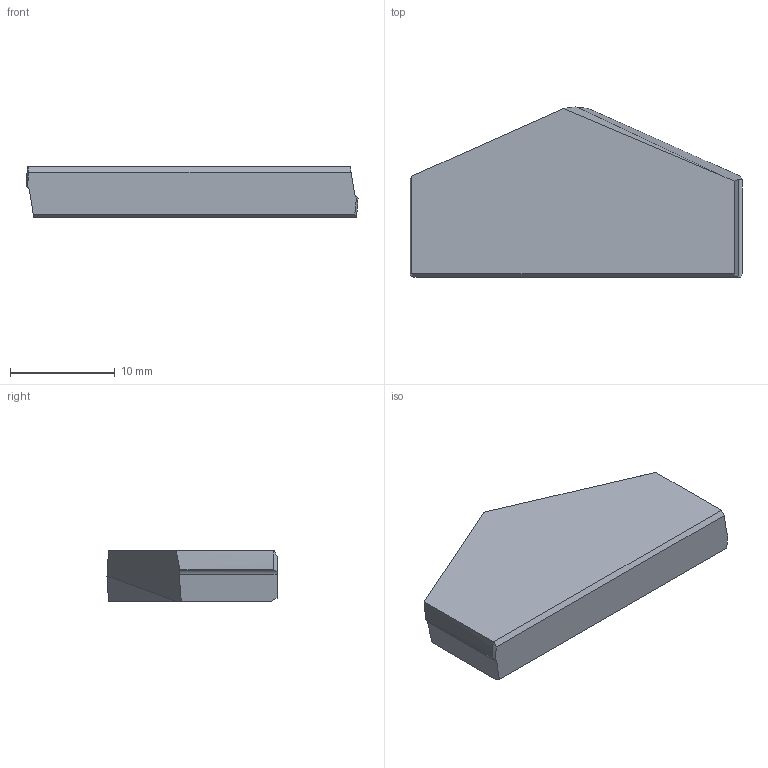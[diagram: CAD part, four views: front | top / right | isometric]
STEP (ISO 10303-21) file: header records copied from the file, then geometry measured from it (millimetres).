
FILE_DESCRIPTION (( 'STEP AP214' ), '1' );
FILE_NAME ('1.1-4.STEP', '2022-06-24T05:48:43', ( '' ), ( '' ), 'SwSTEP 2.0', 'SolidWorks 2018', '' );
FILE_SCHEMA (( 'AUTOMOTIVE_DESIGN' ));
Length unit declared in the file: millimetre
Products named in the file (1): 1.1-4
Bounding box: 31.73 x 16.25 x 4.8 mm (x, y, z)
Volume: 1899.3 mm3; surface area: 1179.1 mm2
Topology: 1 solids, 1 shells, 17 faces, 44 edges, 29 vertices
Faces by surface type: plane 11, cylinder 4, cone 2
Entity records: 554 total; most frequent: CARTESIAN_POINT 121, ORIENTED_EDGE 88, DIRECTION 76, EDGE_CURVE 44, VERTEX_POINT 29, LINE 28, VECTOR 28, AXIS2_PLACEMENT_3D 24
